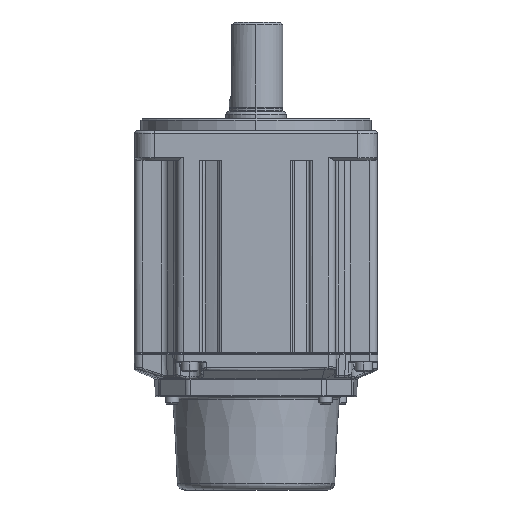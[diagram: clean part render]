
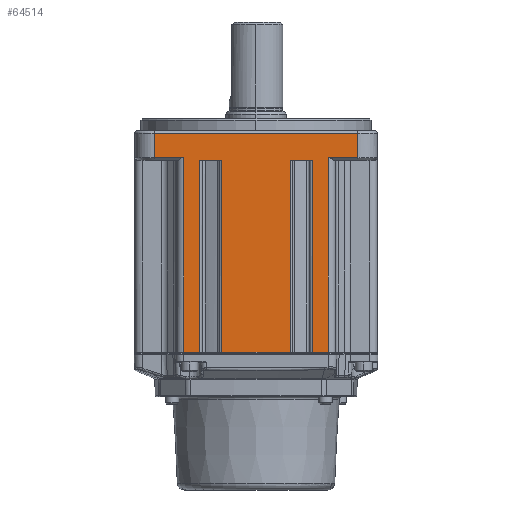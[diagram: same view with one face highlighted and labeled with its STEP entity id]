
A CAD part, front view. The second image highlights one B-rep face of the part: STEP entity #64514.
In plain terms, the highlighted planar face has unit normal (0, -1, 0).
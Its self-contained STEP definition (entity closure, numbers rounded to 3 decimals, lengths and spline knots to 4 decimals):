
#32914=DIRECTION('',(-1.,0.,0.));
#32915=VECTOR('',#32914,3.3071);
#32916=CARTESIAN_POINT('',(3.6685,0.0464,
-1.815));
#32917=LINE('',#32916,#32915);
#34551=CARTESIAN_POINT('',(0.3614,0.0464,
-2.2094));
#34571=DIRECTION('',(0.,0.,-1.));
#34572=VECTOR('',#34571,0.3944);
#34573=CARTESIAN_POINT('',(0.3614,0.0464,
-1.815));
#34574=LINE('',#34573,#34572);
#34733=DIRECTION('',(0.,0.,-1.));
#34734=VECTOR('',#34733,3.1647);
#34735=CARTESIAN_POINT('',(0.8436,0.0464,
-2.2094));
#34736=LINE('',#34735,#34734);
#34747=DIRECTION('',(-1.,0.,0.));
#34748=VECTOR('',#34747,0.4822);
#34749=CARTESIAN_POINT('',(0.8436,0.0464,
-2.2094));
#34750=LINE('',#34749,#34748);
#34754=DIRECTION('',(1.,0.,0.));
#34755=VECTOR('',#34754,0.254);
#34756=CARTESIAN_POINT('',(2.9323,0.0464,
-5.3741));
#34757=LINE('',#34756,#34755);
#34761=DIRECTION('',(1.,0.,0.));
#34762=VECTOR('',#34761,1.1181);
#34763=CARTESIAN_POINT('',(1.4559,0.0464,
-5.3741));
#34764=LINE('',#34763,#34762);
#34768=DIRECTION('',(1.,0.,0.));
#34769=VECTOR('',#34768,0.254);
#34770=CARTESIAN_POINT('',(0.8436,0.0464,
-5.3741));
#34771=LINE('',#34770,#34769);
#34775=DIRECTION('',(-1.,0.,0.));
#34776=VECTOR('',#34775,0.4822);
#34777=CARTESIAN_POINT('',(3.6685,0.0464,
-2.2094));
#34778=LINE('',#34777,#34776);
#34928=DIRECTION('',(0.,0.,1.));
#34929=VECTOR('',#34928,3.1647);
#34930=CARTESIAN_POINT('',(3.1863,0.0464,
-5.3741));
#34931=LINE('',#34930,#34929);
#35038=DIRECTION('',(0.,0.,1.));
#35039=VECTOR('',#35038,0.3944);
#35040=CARTESIAN_POINT('',(3.6685,0.0464,
-2.2094));
#35041=LINE('',#35040,#35039);
#35068=DIRECTION('',(0.,0.,-1.));
#35069=VECTOR('',#35068,3.126);
#35070=CARTESIAN_POINT('',(2.9323,0.0464,
-2.2481));
#35071=LINE('',#35070,#35069);
#35114=DIRECTION('',(1.,0.,0.));
#35115=VECTOR('',#35114,0.3583);
#35116=CARTESIAN_POINT('',(2.574,0.0464,
-2.2481));
#35117=LINE('',#35116,#35115);
#35135=DIRECTION('',(0.,0.,1.));
#35136=VECTOR('',#35135,3.126);
#35137=CARTESIAN_POINT('',(2.574,0.0464,
-5.3741));
#35138=LINE('',#35137,#35136);
#35198=DIRECTION('',(0.,0.,-1.));
#35199=VECTOR('',#35198,3.126);
#35200=CARTESIAN_POINT('',(1.4559,0.0464,
-2.2481));
#35201=LINE('',#35200,#35199);
#35235=DIRECTION('',(1.,0.,0.));
#35236=VECTOR('',#35235,0.3583);
#35237=CARTESIAN_POINT('',(1.0976,0.0464,
-2.2481));
#35238=LINE('',#35237,#35236);
#35263=DIRECTION('',(0.,0.,1.));
#35264=VECTOR('',#35263,3.126);
#35265=CARTESIAN_POINT('',(1.0976,0.0464,
-5.3741));
#35266=LINE('',#35265,#35264);
#58274=VERTEX_POINT('',#34551);
#58275=CARTESIAN_POINT('',(0.3614,0.0464,
-1.815));
#58276=VERTEX_POINT('',#58275);
#58277=CARTESIAN_POINT('',(3.6685,0.0464,
-2.2094));
#58278=CARTESIAN_POINT('',(3.1863,0.0464,
-2.2094));
#58279=VERTEX_POINT('',#58277);
#58280=VERTEX_POINT('',#58278);
#58281=CARTESIAN_POINT('',(3.1863,0.0464,
-5.3741));
#58282=VERTEX_POINT('',#58281);
#58283=CARTESIAN_POINT('',(2.9323,0.0464,
-2.2481));
#58284=CARTESIAN_POINT('',(2.9323,0.0464,
-5.3741));
#58285=VERTEX_POINT('',#58283);
#58286=VERTEX_POINT('',#58284);
#58287=CARTESIAN_POINT('',(2.574,0.0464,
-2.2481));
#58288=VERTEX_POINT('',#58287);
#58289=CARTESIAN_POINT('',(2.574,0.0464,
-5.3741));
#58290=VERTEX_POINT('',#58289);
#58291=CARTESIAN_POINT('',(1.4559,0.0464,
-2.2481));
#58292=CARTESIAN_POINT('',(1.4559,0.0464,
-5.3741));
#58293=VERTEX_POINT('',#58291);
#58294=VERTEX_POINT('',#58292);
#58295=CARTESIAN_POINT('',(1.0976,0.0464,
-5.3741));
#58296=CARTESIAN_POINT('',(1.0976,0.0464,
-2.2481));
#58297=VERTEX_POINT('',#58295);
#58298=VERTEX_POINT('',#58296);
#58299=CARTESIAN_POINT('',(0.8436,0.0464,
-2.2094));
#58300=CARTESIAN_POINT('',(0.8436,0.0464,
-5.3741));
#58301=VERTEX_POINT('',#58299);
#58302=VERTEX_POINT('',#58300);
#58303=CARTESIAN_POINT('',(3.6685,0.0464,
-1.815));
#58304=VERTEX_POINT('',#58303);
#64482=CARTESIAN_POINT('',(2.015,0.0464,
-3.5945));
#64483=DIRECTION('',(0.,1.,0.));
#64484=DIRECTION('',(1.,0.,0.));
#64485=AXIS2_PLACEMENT_3D('',#64482,#64483,#64484);
#64486=PLANE('',#64485);
#64488=ORIENTED_EDGE('',*,*,#64487,.T.);
#64490=ORIENTED_EDGE('',*,*,#64489,.F.);
#64491=ORIENTED_EDGE('',*,*,#63605,.F.);
#64493=ORIENTED_EDGE('',*,*,#64492,.F.);
#64495=ORIENTED_EDGE('',*,*,#64494,.F.);
#64497=ORIENTED_EDGE('',*,*,#64496,.F.);
#64498=ORIENTED_EDGE('',*,*,#63589,.F.);
#64500=ORIENTED_EDGE('',*,*,#64499,.F.);
#64502=ORIENTED_EDGE('',*,*,#64501,.F.);
#64504=ORIENTED_EDGE('',*,*,#64503,.F.);
#64505=ORIENTED_EDGE('',*,*,#63573,.F.);
#64506=ORIENTED_EDGE('',*,*,#64462,.F.);
#64507=ORIENTED_EDGE('',*,*,#64476,.T.);
#64508=ORIENTED_EDGE('',*,*,#64251,.F.);
#64509=ORIENTED_EDGE('',*,*,#63197,.F.);
#64511=ORIENTED_EDGE('',*,*,#64510,.F.);
#64512=EDGE_LOOP('',(#64488,#64490,#64491,#64493,#64495,#64497,#64498,#64500,
#64502,#64504,#64505,#64506,#64507,#64508,#64509,#64511));
#64513=FACE_OUTER_BOUND('',#64512,.F.);
#64514=ADVANCED_FACE('',(#64513),#64486,.F.);
#63197=EDGE_CURVE('',#58304,#58276,#32917,.T.);
#63573=EDGE_CURVE('',#58302,#58297,#34771,.T.);
#63589=EDGE_CURVE('',#58294,#58290,#34764,.T.);
#63605=EDGE_CURVE('',#58286,#58282,#34757,.T.);
#64251=EDGE_CURVE('',#58276,#58274,#34574,.T.);
#64462=EDGE_CURVE('',#58301,#58302,#34736,.T.);
#64476=EDGE_CURVE('',#58301,#58274,#34750,.T.);
#64487=EDGE_CURVE('',#58279,#58280,#34778,.T.);
#64489=EDGE_CURVE('',#58282,#58280,#34931,.T.);
#64492=EDGE_CURVE('',#58285,#58286,#35071,.T.);
#64494=EDGE_CURVE('',#58288,#58285,#35117,.T.);
#64496=EDGE_CURVE('',#58290,#58288,#35138,.T.);
#64499=EDGE_CURVE('',#58293,#58294,#35201,.T.);
#64501=EDGE_CURVE('',#58298,#58293,#35238,.T.);
#64503=EDGE_CURVE('',#58297,#58298,#35266,.T.);
#64510=EDGE_CURVE('',#58279,#58304,#35041,.T.);
